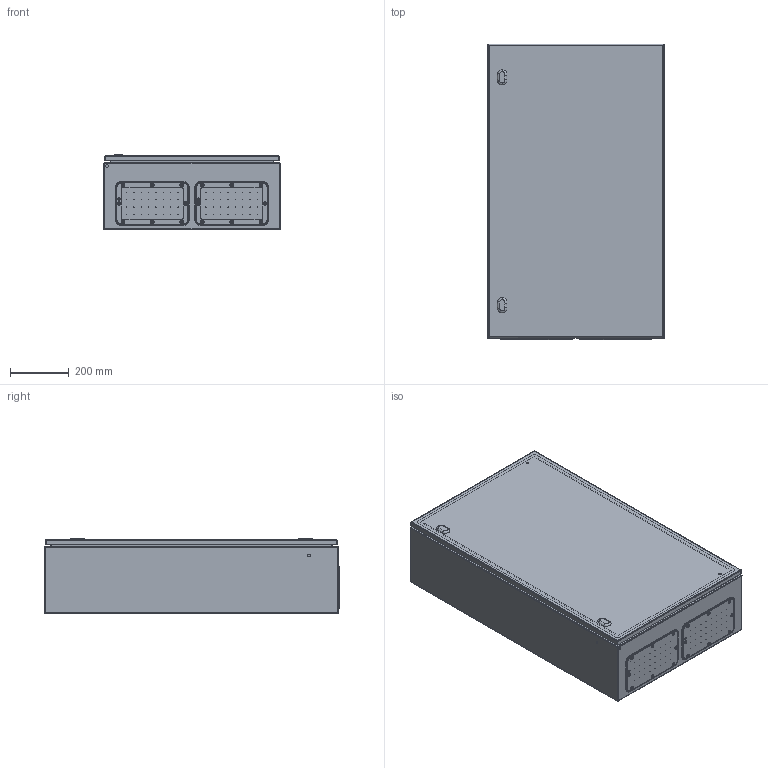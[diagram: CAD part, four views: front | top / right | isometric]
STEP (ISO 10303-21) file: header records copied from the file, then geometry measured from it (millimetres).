
FILE_DESCRIPTION (( 'STEP AP203' ), '1' );
FILE_NAME ('0600x1000x0250 dx.step', '2021-09-07T06:41:59', ( '' ), ( '' ), 'SwSTEP 2.0', 'SolidWorks 2021', '' );
FILE_SCHEMA (( 'CONFIG_CONTROL_DESIGN' ));
Length unit declared in the file: millimetre
Products named in the file (7): AR_ECOR_montaggio_porta_singola_0600x1000; 0600x1000x0250 dx; AR_ECOR_involucro_0600x1000x0250; AR_ECOR_flangia IC_03; AR_ECOR_chiusura_std_STD; AR_ECOR_Piastra_18; AR_ECOR_porta_singola_0600x1000
Assembly tree (8 placements, depth 3):
  0600x1000x0250 dx
    AR_ECOR_involucro_0600x1000x0250
    AR_ECOR_montaggio_porta_singola_0600x1000
      AR_ECOR_porta_singola_0600x1000
      AR_ECOR_chiusura_std_STD  x2
    AR_ECOR_flangia IC_03  x2
    AR_ECOR_Piastra_18
Bounding box: 600 x 1004 x 255 mm (x, y, z)
Volume: 4907206.6 mm3; surface area: 5443390.6 mm2
Topology: 7 solids, 7 shells, 1119 faces, 2785 edges, 1758 vertices
Faces by surface type: cylinder 549, plane 316, cone 108, torus 78, bspline 52, sphere 16
Entity records: 27427 total; most frequent: CARTESIAN_POINT 5506, DIRECTION 4693, ORIENTED_EDGE 4212, EDGE_CURVE 2106, AXIS2_PLACEMENT_3D 1862, VERTEX_POINT 1340, EDGE_LOOP 1142, CIRCLE 1041
